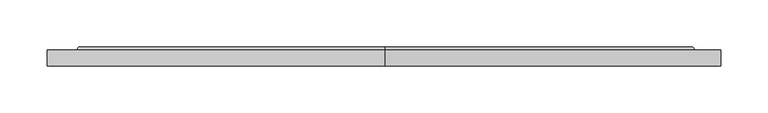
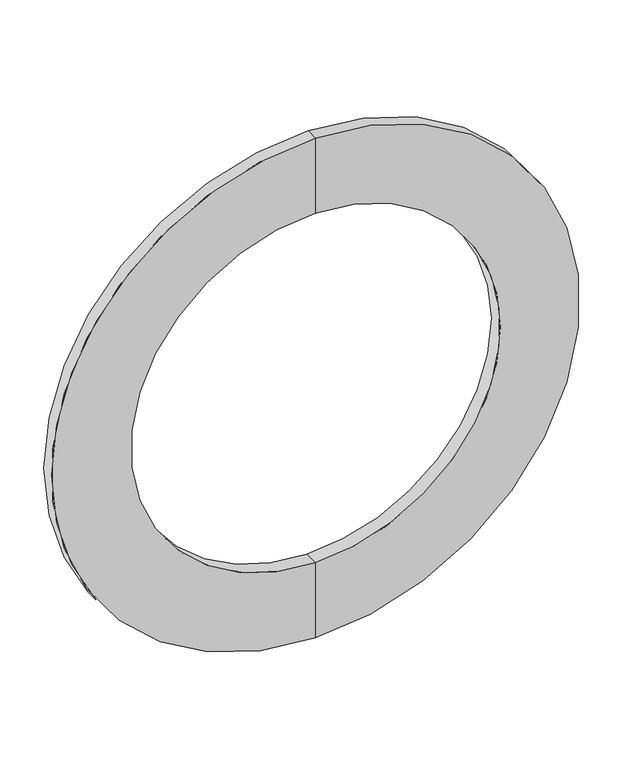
"""IFC4 building model written with IfcOpenShell, lengths in millimetres: pipe fitting geometry, Фланец : Фланец."""

from ifc_helpers import new_model, si_unit, frame, origin, place, context, project, spatial, polyline, circle_curve, source, transform, mapped, element, save
from ifc_brep_helpers import plane_surface, cylinder_surface, revolved_surface, advanced_brep


def pipe_fitting_c62836a1(model_context):
    return source(origin(), model_context, "Body", "AdvancedBrep", [
        advanced_brep(
        [(0.0, 0.0, -357.5), (0.0, 0.0, 357.5), (0.0, 17.0, 357.5), (0.0, 17.0, -357.5), (0.0, 0.0, -250.0), (0.0, 0.0, 250.0), (0.0, 20.0, -250.0), (0.0, 20.0, 250.0), (0.0, 20.0, -326.0), (0.0, 20.0, 326.0), (0.0, 17.0, -328.5), (0.0, 17.0, 328.5)],
        [
            (0, 1, circle_curve(frame((0.0, 0.0, 0.0), z_axis=(0.0, 1.0, 0.0), x_axis=(0.0, 0.0, 1.0)), 357.5)),
            (1, 2),
            (2, 3, circle_curve(frame((0.0, 17.0, 0.0), z_axis=(0.0, -1.0, 0.0), x_axis=(0.0, 0.0, 1.0)), 357.5)),
            (3, 0),
            (1, 0, circle_curve(frame((0.0, 0.0, 0.0), z_axis=(0.0, 1.0, 0.0), x_axis=(0.0, 0.0, 1.0)), 357.5)),
            (3, 2, circle_curve(frame((0.0, 17.0, 0.0), z_axis=(0.0, -1.0, 0.0), x_axis=(0.0, 0.0, 1.0)), 357.5)),
            (4, 5, circle_curve(frame((0.0, 0.0, 0.0), z_axis=(0.0, 1.0, 0.0), x_axis=(0.0, 0.0, 1.0)), 250.0)),
            (5, 1),
            (0, 4),
            (5, 4, circle_curve(frame((0.0, 0.0, 0.0), z_axis=(0.0, 1.0, 0.0), x_axis=(0.0, 0.0, 1.0)), 250.0)),
            (6, 7, circle_curve(frame((0.0, 20.0, 0.0), z_axis=(0.0, 1.0, 0.0), x_axis=(0.0, 0.0, 1.0)), 250.0)),
            (7, 5),
            (4, 6),
            (7, 6, circle_curve(frame((0.0, 20.0, 0.0), z_axis=(0.0, 1.0, 0.0), x_axis=(0.0, 0.0, 1.0)), 250.0)),
            (8, 9, circle_curve(frame((0.0, 20.0, 0.0), z_axis=(0.0, 1.0, 0.0), x_axis=(0.0, 0.0, 1.0)), 326.0)),
            (9, 7),
            (6, 8),
            (9, 8, circle_curve(frame((0.0, 20.0, 0.0), z_axis=(0.0, 1.0, 0.0), x_axis=(0.0, 0.0, 1.0)), 326.0)),
            (10, 11, circle_curve(frame((0.0, 17.0, 0.0), z_axis=(0.0, 1.0, 0.0), x_axis=(0.0, 0.0, 1.0)), 328.5)),
            (11, 9),
            (8, 10),
            (11, 10, circle_curve(frame((0.0, 17.0, 0.0), z_axis=(0.0, 1.0, 0.0), x_axis=(0.0, 0.0, 1.0)), 328.5)),
            (2, 11),
            (10, 3),
        ],
        [
            cylinder_surface(frame((0.0, -60.0, 0.0), z_axis=(0.0, -1.0, 0.0), x_axis=(0.0, 0.0, 1.0)), 357.5),
            plane_surface(frame((0.0, 0.0, 0.0), z_axis=(0.0, -1.0, 0.0), x_axis=(0.0, 0.0, 1.0))),
            revolved_surface(polyline([(0.0, 0.0, 250.0), (0.0, 20.0, 250.0)]), (0.0, -60.0, 0.0), (0.0, -1.0, 0.0)),
            plane_surface(frame((0.0, 20.0, 0.0), z_axis=(0.0, 1.0, 0.0), x_axis=(0.0, 0.0, 1.0))),
            revolved_surface(polyline([(0.0, 20.0, 326.0), (0.0, 17.0, 328.5)]), (0.0, -60.0, 0.0), (0.0, -1.0, 0.0)),
            plane_surface(frame((0.0, 17.0, 0.0), z_axis=(0.0, 1.0, 0.0), x_axis=(0.0, 0.0, 1.0))),
        ],
        [
            (0, [[1, 2, 3, 4]]),
            (0, [[5, -4, 6, -2]]),
            (1, [[7, 8, -1, 9]]),
            (1, [[10, -9, -5, -8]]),
            (2, [[11, 12, -7, 13]]),
            (2, [[14, -13, -10, -12]]),
            (3, [[15, 16, -11, 17]]),
            (3, [[18, -17, -14, -16]]),
            (4, [[19, 20, -15, 21]]),
            (4, [[22, -21, -18, -20]]),
            (5, [[-3, 23, -19, 24]]),
            (5, [[-6, -24, -22, -23]]),
        ],
    ),
    ])


if __name__ == "__main__":
    model = new_model("IFC4")
    model_context = context("Model", 3, world=origin())
    ifc_project = project(units=[si_unit("LENGTHUNIT", "METRE", prefix="MILLI")], contexts=[model_context])
    site = spatial("IfcSite", under=ifc_project)
    building = spatial("IfcBuilding", under=site)
    placement = place(None, origin())
    pipe_fitting_shape = pipe_fitting_c62836a1(model_context)
    element("IfcPipeFitting", 1, ObjectType="Фланец : Фланец", at=placement, inside=building, context=model_context, shape_type="MappedRepresentation", body=[
        mapped(pipe_fitting_shape, transform((0.0, 0.0, 0.0), x_axis=(1.0, 0.0, 0.0), y_axis=(0.0, 1.0, 0.0), z_axis=(0.0, 0.0, 1.0))),
    ])
    save(model, "model.ifc")
